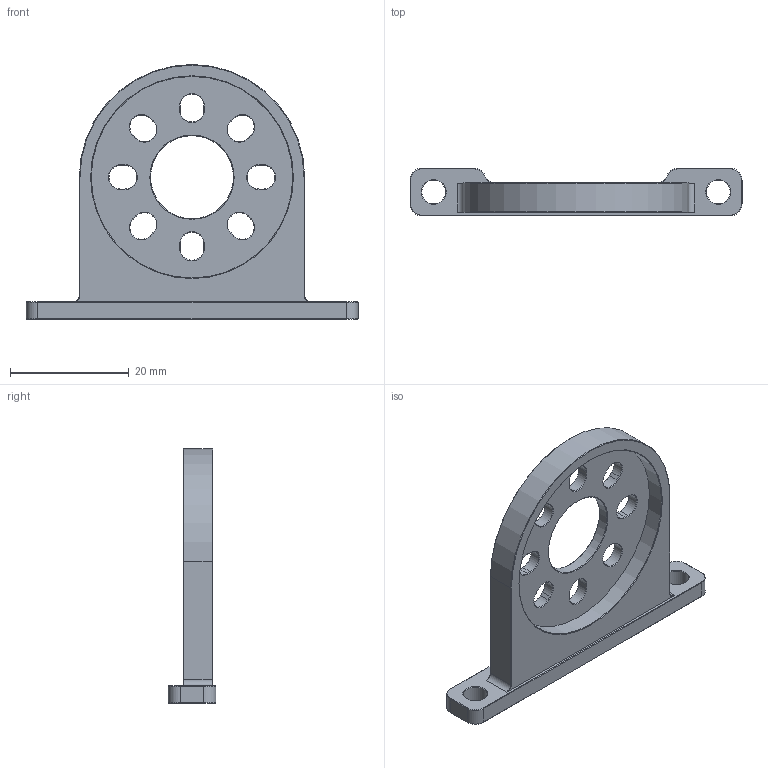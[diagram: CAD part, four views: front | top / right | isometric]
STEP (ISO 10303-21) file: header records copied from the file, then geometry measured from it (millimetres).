
FILE_DESCRIPTION(/* description */ (''),/* implementation_level */ '2;1');
FILE_NAME(/* name */ '1231-0048-0001.step',/* time_stamp */ '2026-09-09T13:41:06-05:00',/* author */ (''),/* organization */ (''),/* preprocessor_version */ 'ST-DEVELOPER v20.2',/* originating_system */ 'Autodesk Translation Framework v15.15.0.0',/* authorisation */ '');
FILE_SCHEMA (('AUTOMOTIVE_DESIGN { 1 0 10303 214 3 1 1 }'));
Length unit declared in the file: millimetre
Products named in the file (1): 2026-07-14-16-35-18-000
Bounding box: 56 x 8 x 43 mm (x, y, z)
Volume: 4574.3 mm3; surface area: 4212 mm2
Topology: 1 solids, 1 shells, 167 faces, 387 edges, 223 vertices
Faces by surface type: plane 75, cone 61, cylinder 31
Full cylindrical faces by diameter (mm): 4 x2, 14 x1, 34 x1
Entity records: 4702 total; most frequent: DIRECTION 840, CARTESIAN_POINT 790, ORIENTED_EDGE 774, EDGE_CURVE 387, AXIS2_PLACEMENT_3D 291, LINE 258, VECTOR 258, VERTEX_POINT 223
